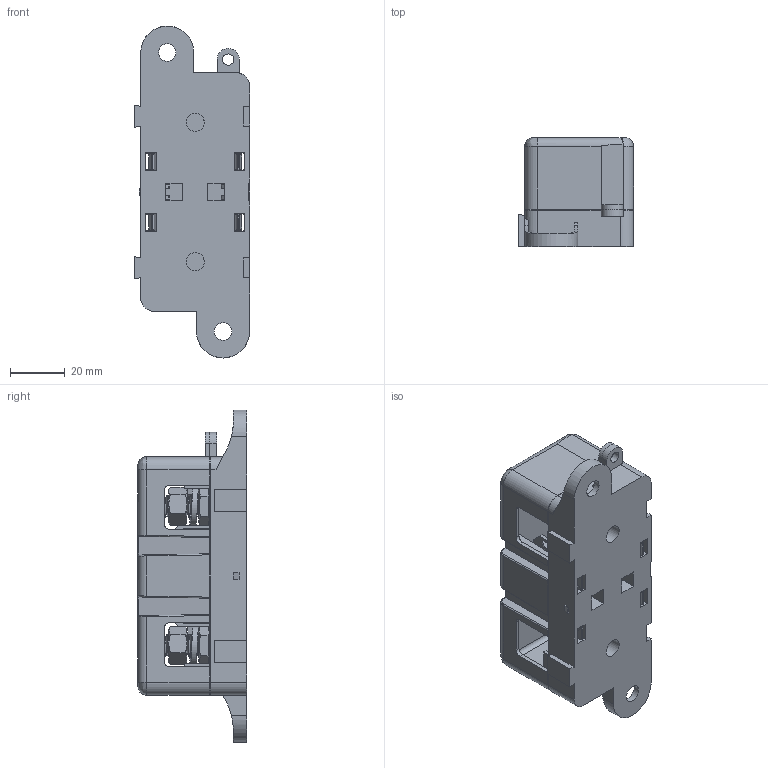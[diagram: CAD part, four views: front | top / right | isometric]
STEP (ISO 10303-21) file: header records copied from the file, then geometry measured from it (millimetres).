
FILE_DESCRIPTION(/* description */ (''),/* implementation_level */ '2;1');
FILE_NAME(/* name */ 'C:\Users\Hani\Desktop\work\BLC-07B\BLC-07B.stp',/* time_stamp */ '2021-07-25T16:44:34-07:00',/* author */ ('Hani'),/* organization */ (''),/* preprocessor_version */ 'ST-DEVELOPER v17',/* originating_system */ 'Autodesk Inventor 2019',/* authorisation */ '');
FILE_SCHEMA (('AUTOMOTIVE_DESIGN { 1 0 10303 214 3 1 1 }'));
Length unit declared in the file: inch
Products named in the file (7): BLC-07B; BLC-06B; M8 Bolt; M8 Nut2; Split Lock Washer; M8 Nut; BLC-07B-COVER
Assembly tree (10 placements, depth 2):
  BLC-07B
    BLC-06B
    M8 Bolt  x2
    M8 Nut2  x2
    Split Lock Washer  x2
    M8 Nut  x2
    BLC-07B-COVER
Bounding box: 41.91 x 39.88 x 120.9 mm (x, y, z)
Volume: 63709.1 mm3; surface area: 43235.5 mm2
Topology: 10 solids, 10 shells, 873 faces, 2313 edges, 1491 vertices
Faces by surface type: plane 437, cylinder 207, bspline 166, cone 58, torus 5
Full cylindrical faces by diameter (mm): 2.54 x4, 4.064 x2, 6.35 x2, 6.376 x40, 6.655 x2, 8 x50
Entity records: 31343 total; most frequent: CARTESIAN_POINT 14370, ORIENTED_EDGE 3778, DIRECTION 2985, EDGE_CURVE 1889, LINE 1225, VECTOR 1225, VERTEX_POINT 1218, AXIS2_PLACEMENT_3D 880
